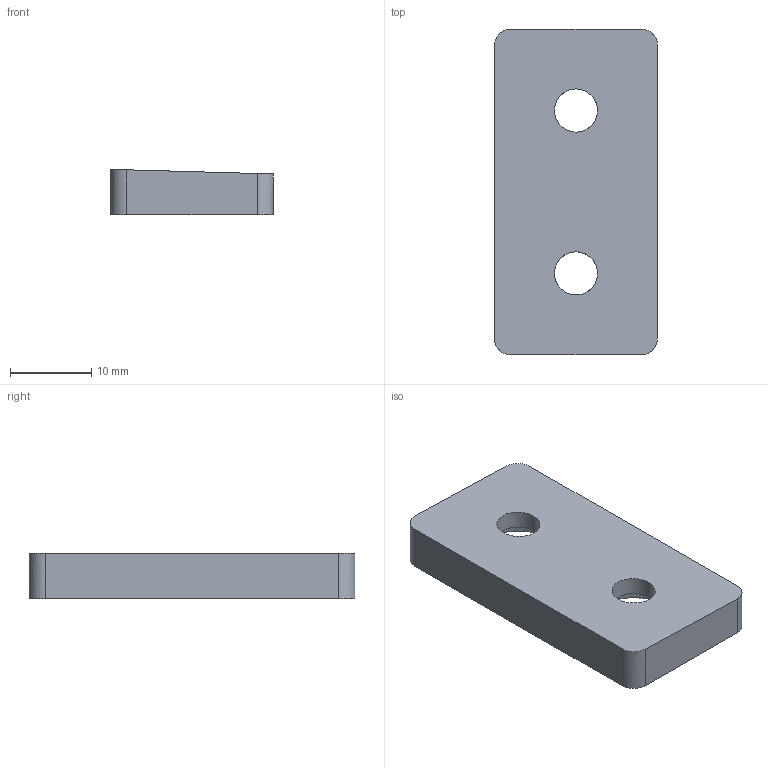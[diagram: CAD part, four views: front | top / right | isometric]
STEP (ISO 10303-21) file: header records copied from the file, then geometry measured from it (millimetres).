
FILE_DESCRIPTION((''),'2;1');
FILE_NAME('0000203587','2024-01-10T08:53:58',('Wyndorps'),(''),'CREO PARAMETRIC BY PTC INC, 2022484','CREO PARAMETRIC BY PTC INC, 2022484','');
FILE_SCHEMA(('CONFIG_CONTROL_DESIGN'));
Length unit declared in the file: millimetre
Products named in the file (1): 0000203587
Bounding box: 20 x 40 x 5.57 mm (x, y, z)
Volume: 3429.3 mm3; surface area: 2423.3 mm2
Topology: 1 solids, 1 shells, 20 faces, 48 edges, 32 vertices
Faces by surface type: cylinder 12, plane 8
Entity records: 680 total; most frequent: CARTESIAN_POINT 162, DIRECTION 96, ORIENTED_EDGE 96, EDGE_CURVE 48, AXIS2_PLACEMENT_3D 36, VERTEX_POINT 32, EDGE_LOOP 26, VECTOR 24
